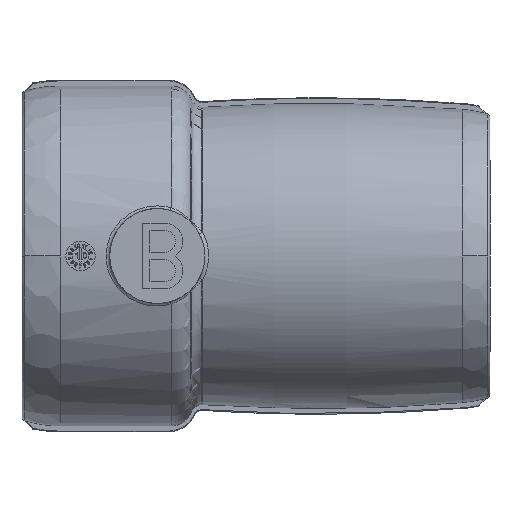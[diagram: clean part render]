
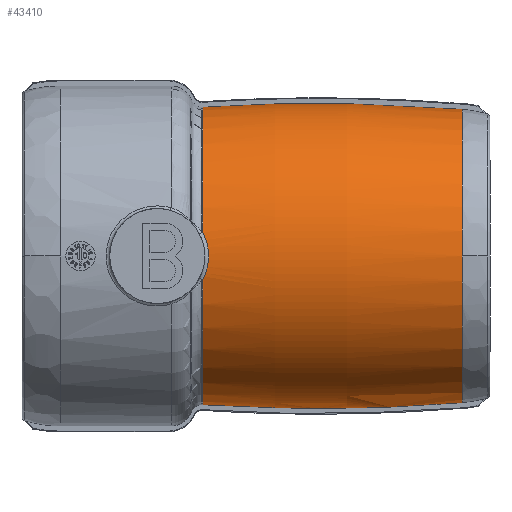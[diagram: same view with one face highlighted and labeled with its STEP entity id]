
A CAD part, front view. The second image highlights one B-rep face of the part: STEP entity #43410.
In plain terms, the highlighted toroidal (fillet/blend) face has major radius 438.083 mm and minor radius 479.833 mm.
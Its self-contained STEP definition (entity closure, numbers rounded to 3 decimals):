
#39295 = VERTEX_POINT ( 'NONE', #65044 ) ;
#39300 = VERTEX_POINT ( 'NONE', #65026 ) ;
#39331 = VERTEX_POINT ( 'NONE', #64790 ) ;
#39382 = VERTEX_POINT ( 'NONE', #65144 ) ;
#39399 = EDGE_CURVE ( 'NONE', #39382, #39300, #65167, .T. ) ;
#39421 = EDGE_CURVE ( 'NONE', #39331, #39295, #65198, .T. ) ;
#42202 = VERTEX_POINT ( 'NONE', #69540 ) ;
#42211 = EDGE_CURVE ( 'NONE', #42213, #42202, #69594, .T. ) ;
#42213 = VERTEX_POINT ( 'NONE', #69546 ) ;
#43406 = ORIENTED_EDGE ( 'NONE', *, *, #39421, .T. ) ;
#43408 = EDGE_CURVE ( 'NONE', #42202, #39382, #71663, .T. ) ;
#43410 = ADVANCED_FACE ( 'NONE', ( #71675 ), #71693, .T. ) ;
#43412 = ORIENTED_EDGE ( 'NONE', *, *, #42211, .T. ) ;
#43414 = ORIENTED_EDGE ( 'NONE', *, *, #43417, .T. ) ;
#43415 = ORIENTED_EDGE ( 'NONE', *, *, #39399, .T. ) ;
#43417 = EDGE_CURVE ( 'NONE', #43421, #42213, #71715, .T. ) ;
#43421 = VERTEX_POINT ( 'NONE', #71736 ) ;
#43489 = EDGE_CURVE ( 'NONE', #39295, #43421, #71923, .T. ) ;
#43491 = ORIENTED_EDGE ( 'NONE', *, *, #43408, .T. ) ;
#43494 = ORIENTED_EDGE ( 'NONE', *, *, #43520, .T. ) ;
#43520 = EDGE_CURVE ( 'NONE', #39300, #39331, #71973, .T. ) ;
#43522 = ORIENTED_EDGE ( 'NONE', *, *, #43489, .T. ) ;
#43525 = EDGE_LOOP ( 'NONE', ( #43414, #43412, #43491, #43415, #43494, #43406, #43522 ) ) ;
#64790 = CARTESIAN_POINT ( 'NONE',  ( -31.602, -40.191, -6.468 ) ) ;
#65026 = CARTESIAN_POINT ( 'NONE',  ( -31.602, -40.191, 6.468 ) ) ;
#65044 = CARTESIAN_POINT ( 'NONE',  ( -31.602, -1.25, -40.689 ) ) ;
#65144 = CARTESIAN_POINT ( 'NONE',  ( -31.602, -1.25, 40.689 ) ) ;
#65154 = DIRECTION ( 'NONE',  ( 0., 1., 0. ) ) ;
#65155 = DIRECTION ( 'NONE',  ( 1., 0., 0. ) ) ;
#65156 = CARTESIAN_POINT ( 'NONE',  ( -31.602, 0., 0. ) ) ;
#65157 = AXIS2_PLACEMENT_3D ( 'NONE', #65156, #65155, #65154 ) ;
#65167 = CIRCLE ( 'NONE', #65157, 40.708 ) ;
#65170 = AXIS2_PLACEMENT_3D ( 'NONE', #65189, #65188, #65187 ) ;
#65187 = DIRECTION ( 'NONE',  ( 0., 1., 0. ) ) ;
#65188 = DIRECTION ( 'NONE',  ( 1., 0., 0. ) ) ;
#65189 = CARTESIAN_POINT ( 'NONE',  ( -31.602, 0., 0. ) ) ;
#65198 = CIRCLE ( 'NONE', #65170, 40.708 ) ;
#69540 = CARTESIAN_POINT ( 'NONE',  ( 39.372, -1.25, 40.113 ) ) ;
#69546 = CARTESIAN_POINT ( 'NONE',  ( 39.372, -40.132, 0. ) ) ;
#69589 = DIRECTION ( 'NONE',  ( 0., 0., -1. ) ) ;
#69590 = DIRECTION ( 'NONE',  ( -1., 0., 0. ) ) ;
#69591 = CARTESIAN_POINT ( 'NONE',  ( 39.372, 0., 0. ) ) ;
#69592 = AXIS2_PLACEMENT_3D ( 'NONE', #69591, #69590, #69589 ) ;
#69594 = CIRCLE ( 'NONE', #69592, 40.132 ) ;
#71663 = B_SPLINE_CURVE_WITH_KNOTS ( 'NONE', 3,
 ( #71732, #71731, #71730, #71729, #71728, #71727, #71726, #71725, #71724, #71723, #71722, #71721 ),
 .UNSPECIFIED., .F., .F.,
 ( 4, 2, 2, 1, 1, 2, 4 ),
 ( 0.764, 0.799, 0.802, 0.804, 0.808, 0.817, 0.835 ),
 .UNSPECIFIED. ) ;
#71675 = FACE_OUTER_BOUND ( 'NONE', #43525, .T. ) ;
#71693 = TOROIDAL_SURFACE ( 'NONE', #71720, -438.083, 479.833 ) ;
#71712 = DIRECTION ( 'NONE',  ( 0., 0., -1. ) ) ;
#71713 = DIRECTION ( 'NONE',  ( -1., 0., 0. ) ) ;
#71714 = CARTESIAN_POINT ( 'NONE',  ( 39.372, 0., 0. ) ) ;
#71715 = CIRCLE ( 'NONE', #71734, 40.132 ) ;
#71717 = DIRECTION ( 'NONE',  ( 0., 0., 1. ) ) ;
#71718 = DIRECTION ( 'NONE',  ( -1., 0., 0. ) ) ;
#71719 = CARTESIAN_POINT ( 'NONE',  ( 0., 0., 0. ) ) ;
#71720 = AXIS2_PLACEMENT_3D ( 'NONE', #71719, #71718, #71717 ) ;
#71721 = CARTESIAN_POINT ( 'NONE',  ( -31.602, -1.25, 40.689 ) ) ;
#71722 = CARTESIAN_POINT ( 'NONE',  ( -25.671, -1.25, 41.081 ) ) ;
#71723 = CARTESIAN_POINT ( 'NONE',  ( -19.731, -1.25, 41.362 ) ) ;
#71724 = CARTESIAN_POINT ( 'NONE',  ( -10.808, -1.25, 41.619 ) ) ;
#71725 = CARTESIAN_POINT ( 'NONE',  ( -6.343, -1.25, 41.706 ) ) ;
#71726 = CARTESIAN_POINT ( 'NONE',  ( -1.129, -1.25, 41.734 ) ) ;
#71727 = CARTESIAN_POINT ( 'NONE',  ( 1.107, -1.25, 41.731 ) ) ;
#71728 = CARTESIAN_POINT ( 'NONE',  ( 2.598, -1.25, 41.725 ) ) ;
#71729 = CARTESIAN_POINT ( 'NONE',  ( 3.346, -1.25, 41.72 ) ) ;
#71730 = CARTESIAN_POINT ( 'NONE',  ( 15.887, -1.25, 41.613 ) ) ;
#71731 = CARTESIAN_POINT ( 'NONE',  ( 27.65, -1.25, 41.078 ) ) ;
#71732 = CARTESIAN_POINT ( 'NONE',  ( 39.372, -1.25, 40.113 ) ) ;
#71734 = AXIS2_PLACEMENT_3D ( 'NONE', #71714, #71713, #71712 ) ;
#71736 = CARTESIAN_POINT ( 'NONE',  ( 39.372, -1.25, -40.113 ) ) ;
#71911 = CARTESIAN_POINT ( 'NONE',  ( 2.98, -1.25, -41.722 ) ) ;
#71912 = CARTESIAN_POINT ( 'NONE',  ( 2.242, -1.25, -41.726 ) ) ;
#71913 = CARTESIAN_POINT ( 'NONE',  ( 1.134, -1.25, -41.731 ) ) ;
#71914 = CARTESIAN_POINT ( 'NONE',  ( -1.448, -1.25, -41.733 ) ) ;
#71915 = CARTESIAN_POINT ( 'NONE',  ( -3.66, -1.25, -41.72 ) ) ;
#71916 = CARTESIAN_POINT ( 'NONE',  ( -8.082, -1.25, -41.672 ) ) ;
#71917 = CARTESIAN_POINT ( 'NONE',  ( -11.028, -1.25, -41.614 ) ) ;
#71918 = CARTESIAN_POINT ( 'NONE',  ( -19.858, -1.25, -41.356 ) ) ;
#71919 = CARTESIAN_POINT ( 'NONE',  ( -25.735, -1.25, -41.076 ) ) ;
#71920 = CARTESIAN_POINT ( 'NONE',  ( -31.602, -1.25, -40.689 ) ) ;
#71923 = B_SPLINE_CURVE_WITH_KNOTS ( 'NONE', 3,
 ( #71920, #71919, #71918, #71917, #71916, #71915, #71914, #71913, #71912, #71911, #71958, #71957, #71956, #71955 ),
 .UNSPECIFIED., .F., .F.,
 ( 4, 2, 2, 1, 1, 2, 2, 4 ),
 ( 0.765, 0.783, 0.792, 0.796, 0.798, 0.799, 0.8, 0.836 ),
 .UNSPECIFIED. ) ;
#71955 = CARTESIAN_POINT ( 'NONE',  ( 39.372, -1.25, -40.113 ) ) ;
#71956 = CARTESIAN_POINT ( 'NONE',  ( 27.53, -1.25, -41.088 ) ) ;
#71957 = CARTESIAN_POINT ( 'NONE',  ( 15.646, -1.25, -41.624 ) ) ;
#71958 = CARTESIAN_POINT ( 'NONE',  ( 3.347, -1.25, -41.72 ) ) ;
#71973 = B_SPLINE_CURVE_WITH_KNOTS ( 'NONE', 3,
 ( #72014, #72013, #72012, #72011, #72010, #72009, #72008, #72007, #72006, #72005, #72004, #72003, #72002, #72001, #72000, #71999 ),
 .UNSPECIFIED., .F., .F.,
 ( 4, 2, 2, 2, 2, 2, 2, 4 ),
 ( 0., 0.003, 0.005, 0.007, 0.008, 0.009, 0.01, 0.014 ),
 .UNSPECIFIED. ) ;
#71999 = CARTESIAN_POINT ( 'NONE',  ( -31.602, -40.191, -6.468 ) ) ;
#72000 = CARTESIAN_POINT ( 'NONE',  ( -31.06, -40.386, -5.482 ) ) ;
#72001 = CARTESIAN_POINT ( 'NONE',  ( -30.648, -40.542, -4.446 ) ) ;
#72002 = CARTESIAN_POINT ( 'NONE',  ( -30.296, -40.676, -3.089 ) ) ;
#72003 = CARTESIAN_POINT ( 'NONE',  ( -30.234, -40.7, -2.814 ) ) ;
#72004 = CARTESIAN_POINT ( 'NONE',  ( -30.127, -40.742, -2.258 ) ) ;
#72005 = CARTESIAN_POINT ( 'NONE',  ( -30.081, -40.759, -1.976 ) ) ;
#72006 = CARTESIAN_POINT ( 'NONE',  ( -29.973, -40.801, -1.13 ) ) ;
#72007 = CARTESIAN_POINT ( 'NONE',  ( -29.938, -40.815, -0.566 ) ) ;
#72008 = CARTESIAN_POINT ( 'NONE',  ( -29.937, -40.815, 0.56 ) ) ;
#72009 = CARTESIAN_POINT ( 'NONE',  ( -29.973, -40.801, 1.122 ) ) ;
#72010 = CARTESIAN_POINT ( 'NONE',  ( -30.115, -40.746, 2.246 ) ) ;
#72011 = CARTESIAN_POINT ( 'NONE',  ( -30.224, -40.704, 2.808 ) ) ;
#72012 = CARTESIAN_POINT ( 'NONE',  ( -30.647, -40.542, 4.444 ) ) ;
#72013 = CARTESIAN_POINT ( 'NONE',  ( -31.06, -40.386, 5.482 ) ) ;
#72014 = CARTESIAN_POINT ( 'NONE',  ( -31.602, -40.191, 6.468 ) ) ;
